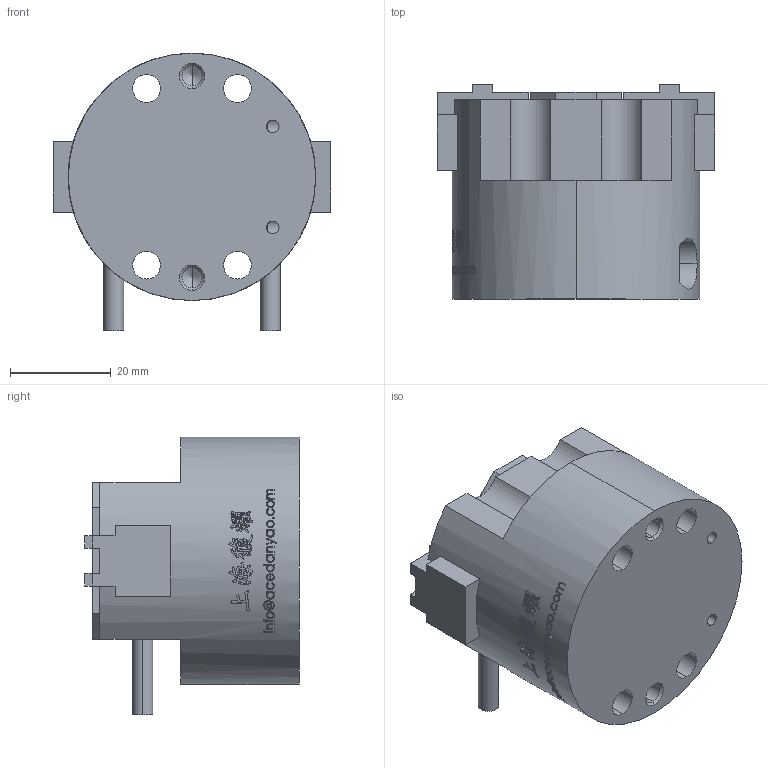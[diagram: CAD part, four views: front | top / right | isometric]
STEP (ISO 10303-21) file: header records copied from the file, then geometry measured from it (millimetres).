
FILE_DESCRIPTION (( 'STEP AP203' ), '1' );
FILE_NAME ('OPM-050-C1-原始檔-組合-W106.04.18.STEP', '2017-04-18T03:51:55', ( 'DanyaoCAD' ), ( '' ), 'SwSTEP 2.0', 'SolidWorks 2016', '' );
FILE_SCHEMA (( 'CONFIG_CONTROL_DESIGN' ));
Length unit declared in the file: millimetre
Products named in the file (3): Griffa; Corpo; OPM-050-C1-原始檔-組合-W106.04.18
Assembly tree (3 placements, depth 2):
  OPM-050-C1-原始檔-組合-W106.04.18
    Griffa  x2
    Corpo
Bounding box: 55 x 42.5 x 55 mm (x, y, z)
Volume: 64817 mm3; surface area: 18418.2 mm2
Topology: 3 solids, 3 shells, 943 faces, 2635 edges, 1748 vertices
Faces by surface type: bspline 665, plane 177, cylinder 93, cone 8
Entity records: 72762 total; most frequent: CARTESIAN_POINT 54811, ORIENTED_EDGE 5100, EDGE_CURVE 2550, B_SPLINE_CURVE_WITH_KNOTS 2037, VERTEX_POINT 1694, DIRECTION 1186, EDGE_LOOP 978, ADVANCED_FACE 912
